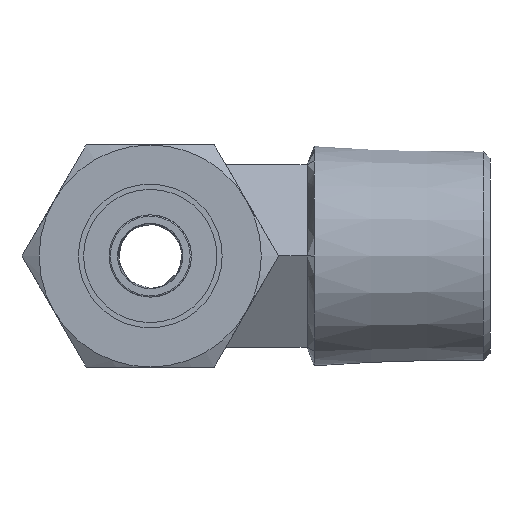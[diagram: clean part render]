
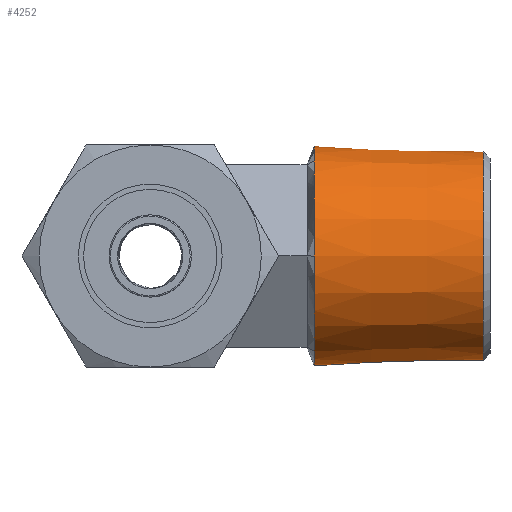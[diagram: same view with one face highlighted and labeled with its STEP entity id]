
A CAD part, left-side view. The second image highlights one B-rep face of the part: STEP entity #4252.
In plain terms, the highlighted conical face has half-angle 1.79 degrees and reference radius 8.198 mm.
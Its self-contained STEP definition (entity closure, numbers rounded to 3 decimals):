
#3892=CARTESIAN_POINT('',(4.2,13.451,-7.275));
#3893=VERTEX_POINT('',#3892);
#3894=CARTESIAN_POINT('',(-4.2,13.451,-7.275));
#3895=VERTEX_POINT('',#3894);
#3896=CARTESIAN_POINT('',(0.0,13.451,0.0));
#3897=DIRECTION('',(0.0,1.0,0.0));
#3898=DIRECTION('',(-1.0,0.0,0.0));
#3899=AXIS2_PLACEMENT_3D('',#3896,#3897,#3898);
#3900=CIRCLE('',#3899,8.4);
#3901=EDGE_CURVE('',#3893,#3895,#3900,.T.);
#3959=CARTESIAN_POINT('',(-8.4,13.451,0.0));
#3960=VERTEX_POINT('',#3959);
#3961=CARTESIAN_POINT('',(0.0,13.451,0.0));
#3962=DIRECTION('',(0.0,1.0,0.0));
#3963=DIRECTION('',(-1.0,0.0,0.0));
#3964=AXIS2_PLACEMENT_3D('',#3961,#3962,#3963);
#3965=CIRCLE('',#3964,8.4);
#3966=EDGE_CURVE('',#3895,#3960,#3965,.T.);
#4016=CARTESIAN_POINT('',(-4.2,13.451,7.275));
#4017=VERTEX_POINT('',#4016);
#4018=CARTESIAN_POINT('',(0.0,13.451,0.0));
#4019=DIRECTION('',(0.0,1.0,0.0));
#4020=DIRECTION('',(-1.0,0.0,0.0));
#4021=AXIS2_PLACEMENT_3D('',#4018,#4019,#4020);
#4022=CIRCLE('',#4021,8.4);
#4023=EDGE_CURVE('',#3960,#4017,#4022,.T.);
#4071=CARTESIAN_POINT('',(4.2,13.451,7.275));
#4072=VERTEX_POINT('',#4071);
#4073=CARTESIAN_POINT('',(0.0,13.451,0.0));
#4074=DIRECTION('',(0.0,1.0,0.0));
#4075=DIRECTION('',(-1.0,0.0,0.0));
#4076=AXIS2_PLACEMENT_3D('',#4073,#4074,#4075);
#4077=CIRCLE('',#4076,8.4);
#4078=EDGE_CURVE('',#4017,#4072,#4077,.T.);
#4121=CARTESIAN_POINT('',(8.4,13.451,0.));
#4122=VERTEX_POINT('',#4121);
#4123=CARTESIAN_POINT('',(0.0,13.451,0.0));
#4124=DIRECTION('',(0.0,1.0,0.0));
#4125=DIRECTION('',(-1.0,0.0,0.0));
#4126=AXIS2_PLACEMENT_3D('',#4123,#4124,#4125);
#4127=CIRCLE('',#4126,8.4);
#4128=EDGE_CURVE('',#4072,#4122,#4127,.T.);
#4178=CARTESIAN_POINT('',(0.0,13.451,0.0));
#4179=DIRECTION('',(0.0,1.0,0.0));
#4180=DIRECTION('',(-1.0,0.0,0.0));
#4181=AXIS2_PLACEMENT_3D('',#4178,#4179,#4180);
#4182=CIRCLE('',#4181,8.4);
#4183=EDGE_CURVE('',#4122,#3893,#4182,.T.);
#4221=CARTESIAN_POINT('',(-7.995,0.5,0.0));
#4222=VERTEX_POINT('',#4221);
#4223=CARTESIAN_POINT('',(0.0,0.5,0.0));
#4224=DIRECTION('',(0.0,1.0,0.0));
#4225=DIRECTION('',(-1.0,0.0,0.0));
#4226=AXIS2_PLACEMENT_3D('',#4223,#4224,#4225);
#4227=CIRCLE('',#4226,7.995);
#4228=EDGE_CURVE('',#4222,#4222,#4227,.T.);
#4236=CARTESIAN_POINT('',(0.0,6.975,0.0));
#4237=DIRECTION('',(0.0,1.0,0.0));
#4238=DIRECTION('',(-1.0,0.0,0.0));
#4239=AXIS2_PLACEMENT_3D('',#4236,#4237,#4238);
#4240=CONICAL_SURFACE('',#4239,8.198,1.79);
#4241=ORIENTED_EDGE('',*,*,#4023,.F.);
#4242=ORIENTED_EDGE('',*,*,#3966,.F.);
#4243=ORIENTED_EDGE('',*,*,#3901,.F.);
#4244=ORIENTED_EDGE('',*,*,#4183,.F.);
#4245=ORIENTED_EDGE('',*,*,#4128,.F.);
#4246=ORIENTED_EDGE('',*,*,#4078,.F.);
#4247=EDGE_LOOP('',(#4241,#4242,#4243,#4244,#4245,#4246));
#4248=FACE_OUTER_BOUND('',#4247,.T.);
#4249=ORIENTED_EDGE('',*,*,#4228,.T.);
#4250=EDGE_LOOP('',(#4249));
#4251=FACE_BOUND('',#4250,.T.);
#4252=ADVANCED_FACE('',(#4248,#4251),#4240,.T.);
